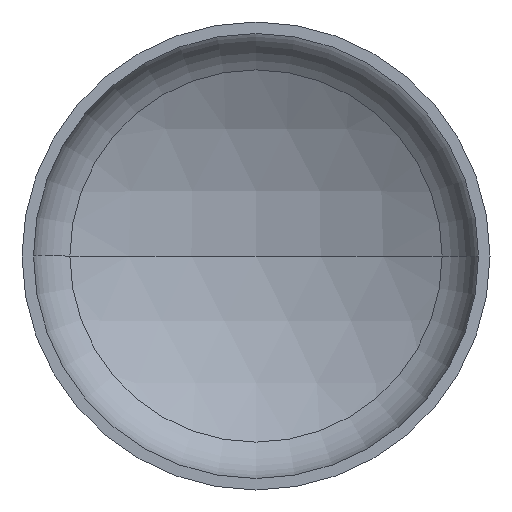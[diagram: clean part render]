
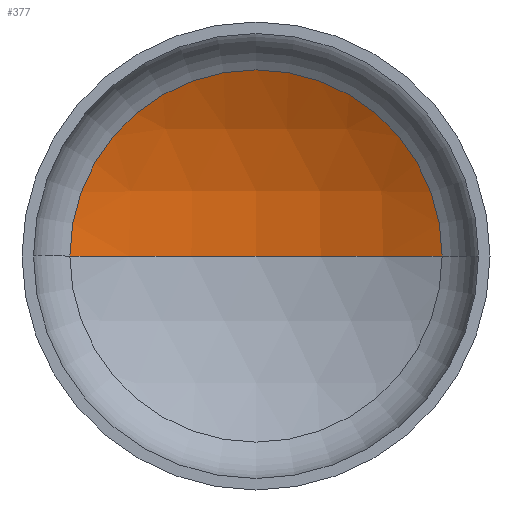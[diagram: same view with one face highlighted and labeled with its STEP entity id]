
A CAD part, front view. The second image highlights one B-rep face of the part: STEP entity #377.
In plain terms, the highlighted spherical face has radius 880 mm.
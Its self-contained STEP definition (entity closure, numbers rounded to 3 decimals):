
#3 = AXIS2_PLACEMENT_3D ( 'NONE', #101, #103, #395 ) ;
#12 = AXIS2_PLACEMENT_3D ( 'NONE', #288, #345, #60 ) ;
#13 = AXIS2_PLACEMENT_3D ( 'NONE', #137, #386, #69 ) ;
#40 = AXIS2_PLACEMENT_3D ( 'NONE', #300, #297, #213 ) ;
#45 = EDGE_LOOP ( 'NONE', ( #305, #198, #70 ) ) ;
#60 = DIRECTION ( 'NONE',  ( 1., 0., 0. ) ) ;
#67 = VERTEX_POINT ( 'NONE', #228 ) ;
#69 = DIRECTION ( 'NONE',  ( -1., 0., 0. ) ) ;
#70 = ORIENTED_EDGE ( 'NONE', *, *, #74, .T. ) ;
#74 = EDGE_CURVE ( 'NONE', #67, #223, #210, .T. ) ;
#101 = CARTESIAN_POINT ( 'NONE',  ( 0., -531.028, 0. ) ) ;
#103 = DIRECTION ( 'NONE',  ( 0., 0., -1. ) ) ;
#135 = CIRCLE ( 'NONE', #13, 880. ) ;
#137 = CARTESIAN_POINT ( 'NONE',  ( 0., -531.028, 0. ) ) ;
#157 = VERTEX_POINT ( 'NONE', #219 ) ;
#198 = ORIENTED_EDGE ( 'NONE', *, *, #347, .T. ) ;
#210 = CIRCLE ( 'NONE', #40, 437.521 ) ;
#213 = DIRECTION ( 'NONE',  ( 1., 0., 0. ) ) ;
#214 = FACE_OUTER_BOUND ( 'NONE', #45, .T. ) ;
#219 = CARTESIAN_POINT ( 'NONE',  ( 0., 348.972, 0. ) ) ;
#223 = VERTEX_POINT ( 'NONE', #369 ) ;
#228 = CARTESIAN_POINT ( 'NONE',  ( 437.521, 232.5, 0. ) ) ;
#288 = CARTESIAN_POINT ( 'NONE',  ( 0., -531.028, 0. ) ) ;
#297 = DIRECTION ( 'NONE',  ( 0., -1., 0. ) ) ;
#300 = CARTESIAN_POINT ( 'NONE',  ( 0., 232.5, 0. ) ) ;
#305 = ORIENTED_EDGE ( 'NONE', *, *, #351, .F. ) ;
#345 = DIRECTION ( 'NONE',  ( 0., 0., 1. ) ) ;
#347 = EDGE_CURVE ( 'NONE', #157, #67, #135, .T. ) ;
#351 = EDGE_CURVE ( 'NONE', #157, #223, #361, .T. ) ;
#361 = CIRCLE ( 'NONE', #12, 880. ) ;
#369 = CARTESIAN_POINT ( 'NONE',  ( -437.521, 232.5, 0. ) ) ;
#377 = ADVANCED_FACE ( 'NONE', ( #214 ), #407, .F. ) ;
#386 = DIRECTION ( 'NONE',  ( 0., 0., -1. ) ) ;
#395 = DIRECTION ( 'NONE',  ( -1., 0., 0. ) ) ;
#407 = SPHERICAL_SURFACE ( 'NONE', #3, 880. ) ;
